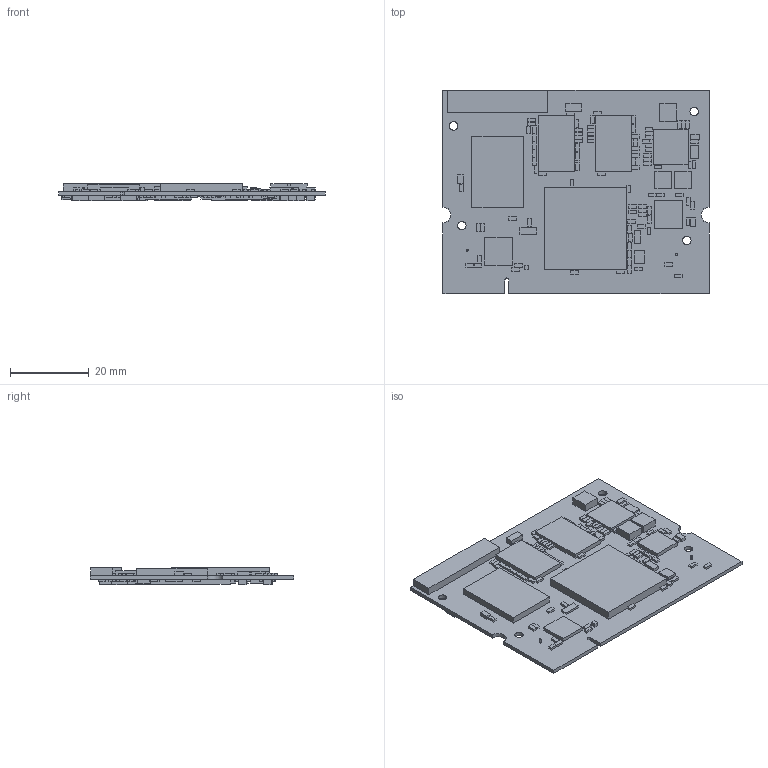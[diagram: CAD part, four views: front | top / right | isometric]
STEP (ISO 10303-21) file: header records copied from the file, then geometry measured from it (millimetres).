
FILE_DESCRIPTION (( 'STEP AP214' ), '1' );
FILE_NAME ('VAR-SOM-MX6_V1_22_030214.STEP', '2014-03-19T15:50:00', ( 'LAB' ), ( '' ), 'SwSTEP 2.0', 'SolidWorks 2013', '' );
FILE_SCHEMA (( 'AUTOMOTIVE_DESIGN' ));
Length unit declared in the file: millimetre
Products named in the file (1): VAR-SOM-MX6_V1_22_030214
Bounding box: 67.6 x 51.69 x 4.56 mm (x, y, z)
Volume: 6931.4 mm3; surface area: 14529 mm2
Topology: 325 solids, 325 shells, 2506 faces, 5568 edges, 3712 vertices
Faces by surface type: plane 2483, cylinder 23
Entity records: 98242 total; most frequent: CARTESIAN_POINT 11787, ORIENTED_EDGE 11136, DIRECTION 10628, EDGE_CURVE 5568, VECTOR 5522, LINE 5522, VERTEX_POINT 3712, UNCERTAINTY_MEASURE_WITH_UNIT 2825
